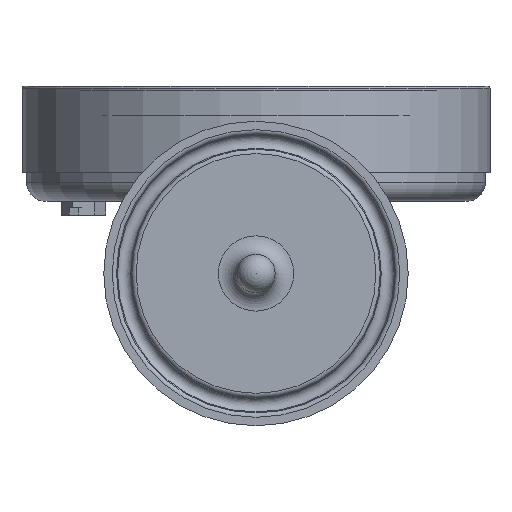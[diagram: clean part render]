
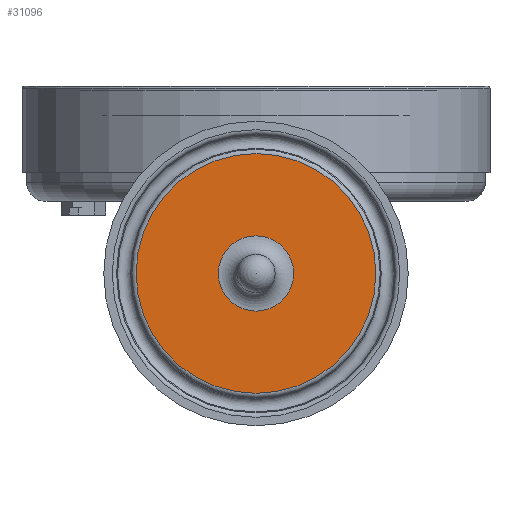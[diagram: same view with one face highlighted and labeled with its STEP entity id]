
A CAD part, front view. The second image highlights one B-rep face of the part: STEP entity #31096.
In plain terms, the highlighted planar face has unit normal (0, -1, 0).
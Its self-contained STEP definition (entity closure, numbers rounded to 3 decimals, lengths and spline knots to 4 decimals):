
#514=FACE_BOUND($,#4275,.T.);
#583=CIRCLE($,#32350,0.7811);
#586=CIRCLE($,#32357,0.2452);
#2366=FACE_OUTER_BOUND($,#4274,.T.);
#4274=EDGE_LOOP($,(#26973));
#4275=EDGE_LOOP($,(#26974));
#14560=VERTEX_POINT($,#52653);
#14563=VERTEX_POINT($,#52663);
#18710=EDGE_CURVE($,#14560,#14560,#583,.T.);
#18713=EDGE_CURVE($,#14563,#14563,#586,.T.);
#26973=ORIENTED_EDGE($,*,*,#18710,.F.);
#26974=ORIENTED_EDGE($,*,*,#18713,.F.);
#28223=PLANE($,#32356);
#31096=ADVANCED_FACE($,(#2366,#514),#28223,.T.);
#32350=AXIS2_PLACEMENT_3D($,#52654,#38094,#38095);
#32356=AXIS2_PLACEMENT_3D($,#52662,#38106,#38107);
#32357=AXIS2_PLACEMENT_3D($,#52664,#38108,#38109);
#38094=DIRECTION('center_axis',(0.,1.,0.));
#38095=DIRECTION('ref_axis',(0.,0.,1.));
#38106=DIRECTION('center_axis',(0.,-1.,0.));
#38107=DIRECTION('ref_axis',(-1.,0.,0.));
#38108=DIRECTION('center_axis',(0.,-1.,0.));
#38109=DIRECTION('ref_axis',(0.,0.,-1.));
#52653=CARTESIAN_POINT('',(2.3978,1.3637,5.8301));
#52654=CARTESIAN_POINT('Origin',(2.3978,1.3637,6.6112));
#52662=CARTESIAN_POINT('Origin',(2.3978,1.3637,6.4861));
#52663=CARTESIAN_POINT('',(2.3978,1.3637,6.8564));
#52664=CARTESIAN_POINT('Origin',(2.3978,1.3637,6.6112));
